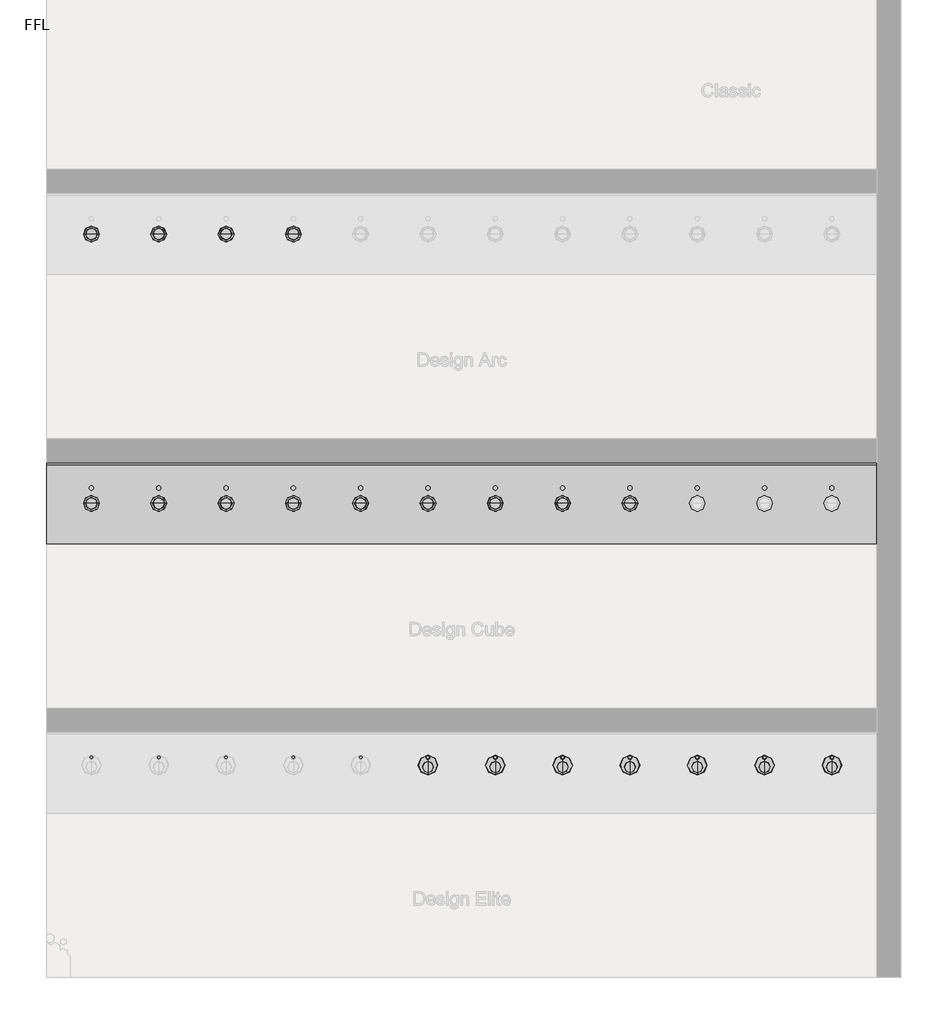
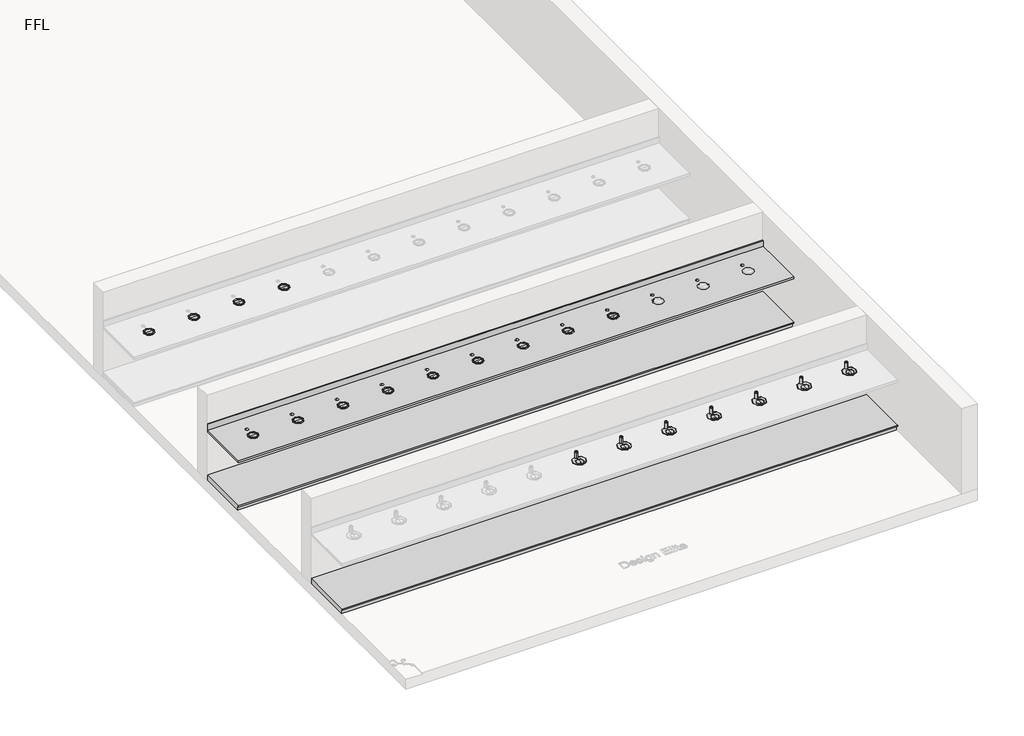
# One storey, part 2 of 6: 20 flow terminals, 3 furniture elements.
"""IFC4 building model written with IfcOpenShell, lengths in millimetres."""

from ifc_helpers import new_model, si_unit, frame, origin, place, context, project, spatial, polyline, circle_curve, transform, mapped, element, save
from ifc_brep_helpers import plane_surface, revolved_surface, advanced_brep
from components import bright_chrome_743c02cf, bright_chrome_13082571, generic_plinth_900mm_08863006

model = new_model("IFC4")

# Units and contexts
model_context = context("Model", 3, world=origin())
ifc_project = project(units=[si_unit("LENGTHUNIT", "METRE", prefix="MILLI")], contexts=[model_context])

# Site, building, storey
site = spatial("IfcSite", under=ifc_project)
building = spatial("IfcBuilding", under=site)
storey = spatial("IfcBuildingStorey", under=building, Name="FFL", Elevation=0.0)

# Flow terminals
placement = place(None, origin())
bright_chrome_shape = bright_chrome_743c02cf(model_context)
element("IfcFlowTerminal", 1, ObjectType="z_PlumFixt_Zip Australia_Font : Bright Chrome", at=placement, inside=storey, context=model_context, shape_type="MappedRepresentation", body=[
    mapped(bright_chrome_shape, transform((-6470.7352929, 4381.2393304, 900.0), x_axis=(1.0, 0.0, 0.0), y_axis=(0.0, 1.0, 0.0), z_axis=(0.0, 0.0, 1.0))),
])
element("IfcFlowTerminal", 2, ObjectType="z_PlumFixt_Zip Australia_Font : Bright Chrome", at=placement, inside=storey, context=model_context, shape_type="MappedRepresentation", body=[
    mapped(bright_chrome_shape, transform((-6470.7352929, 1381.2393304, 900.0), x_axis=(1.0, 0.0, 0.0), y_axis=(0.0, 1.0, 0.0), z_axis=(0.0, 0.0, 1.0))),
])
element("IfcFlowTerminal", 3, ObjectType="z_PlumFixt_Zip Australia_Font : Brushed Chrome", at=placement, inside=storey, context=model_context, shape_type="MappedRepresentation", body=[
    mapped(bright_chrome_shape, transform((-5720.7352929, 4381.2393304, 900.0), x_axis=(1.0, 0.0, 0.0), y_axis=(0.0, 1.0, 0.0), z_axis=(0.0, 0.0, 1.0))),
])
element("IfcFlowTerminal", 4, ObjectType="z_PlumFixt_Zip Australia_Font : Brushed Chrome", at=placement, inside=storey, context=model_context, shape_type="MappedRepresentation", body=[
    mapped(bright_chrome_shape, transform((-5720.7352929, 1381.2393304, 900.0), x_axis=(1.0, 0.0, 0.0), y_axis=(0.0, 1.0, 0.0), z_axis=(0.0, 0.0, 1.0))),
])
element("IfcFlowTerminal", 5, ObjectType="z_PlumFixt_Zip Australia_Font : Brushed Gold", at=placement, inside=storey, context=model_context, shape_type="MappedRepresentation", body=[
    mapped(bright_chrome_shape, transform((-4970.7352929, 4381.2393304, 900.0), x_axis=(1.0, 0.0, 0.0), y_axis=(0.0, 1.0, 0.0), z_axis=(0.0, 0.0, 1.0))),
])
element("IfcFlowTerminal", 6, ObjectType="z_PlumFixt_Zip Australia_Font : Brushed Gold", at=placement, inside=storey, context=model_context, shape_type="MappedRepresentation", body=[
    mapped(bright_chrome_shape, transform((-4970.7352929, 1381.2393304, 900.0), x_axis=(1.0, 0.0, 0.0), y_axis=(0.0, 1.0, 0.0), z_axis=(0.0, 0.0, 1.0))),
])
element("IfcFlowTerminal", 7, ObjectType="z_PlumFixt_Zip Australia_Font : Brushed Nickel", at=placement, inside=storey, context=model_context, shape_type="MappedRepresentation", body=[
    mapped(bright_chrome_shape, transform((-4220.7352929, 4381.2393304, 900.0), x_axis=(1.0, 0.0, 0.0), y_axis=(0.0, 1.0, 0.0), z_axis=(0.0, 0.0, 1.0))),
])
element("IfcFlowTerminal", 8, ObjectType="z_PlumFixt_Zip Australia_Font : Brushed Nickel", at=placement, inside=storey, context=model_context, shape_type="MappedRepresentation", body=[
    mapped(bright_chrome_shape, transform((-4220.7352929, 1381.2393304, 900.0), x_axis=(1.0, 0.0, 0.0), y_axis=(0.0, 1.0, 0.0), z_axis=(0.0, 0.0, 1.0))),
])
element("IfcFlowTerminal", 9, ObjectType="z_PlumFixt_Zip Australia_Font : Brushed Rose Gold", at=placement, inside=storey, context=model_context, shape_type="MappedRepresentation", body=[
    mapped(bright_chrome_shape, transform((-3470.7352929, 1381.2393304, 900.0), x_axis=(1.0, 0.0, 0.0), y_axis=(0.0, 1.0, 0.0), z_axis=(0.0, 0.0, 1.0))),
])
bright_chrome_2_shape = bright_chrome_13082571(model_context)
element("IfcFlowTerminal", 10, ObjectType="z_PlumFixt_Zip Australia_Font and Tap Riser : Gloss Black", at=placement, inside=storey, context=model_context, shape_type="MappedRepresentation", body=[
    mapped(bright_chrome_2_shape, transform((-2720.7352929, -1532.0106696, 900.0), x_axis=(1.0, 0.0, 0.0), y_axis=(0.0, 1.0, 0.0), z_axis=(0.0, 0.0, 1.0))),
])
element("IfcFlowTerminal", 11, ObjectType="z_PlumFixt_Zip Australia_Font : Gloss Black", at=placement, inside=storey, context=model_context, shape_type="MappedRepresentation", body=[
    mapped(bright_chrome_shape, transform((-2720.7352929, 1381.2393304, 900.0), x_axis=(1.0, 0.0, 0.0), y_axis=(0.0, 1.0, 0.0), z_axis=(0.0, 0.0, 1.0))),
])
element("IfcFlowTerminal", 12, ObjectType="z_PlumFixt_Zip Australia_Font : Gold", at=placement, inside=storey, context=model_context, shape_type="MappedRepresentation", body=[
    mapped(bright_chrome_shape, transform((-1970.7352929, 1381.2393304, 900.0), x_axis=(1.0, 0.0, 0.0), y_axis=(0.0, 1.0, 0.0), z_axis=(0.0, 0.0, 1.0))),
])
element("IfcFlowTerminal", 13, ObjectType="z_PlumFixt_Zip Australia_Font and Tap Riser : Gold", at=placement, inside=storey, context=model_context, shape_type="MappedRepresentation", body=[
    mapped(bright_chrome_2_shape, transform((-1970.7352929, -1532.0106696, 900.0), x_axis=(1.0, 0.0, 0.0), y_axis=(0.0, 1.0, 0.0), z_axis=(0.0, 0.0, 1.0))),
])
element("IfcFlowTerminal", 14, ObjectType="z_PlumFixt_Zip Australia_Font : Gunmetal", at=placement, inside=storey, context=model_context, shape_type="MappedRepresentation", body=[
    mapped(bright_chrome_shape, transform((-1220.7352929, 1381.2393304, 900.0), x_axis=(1.0, 0.0, 0.0), y_axis=(0.0, 1.0, 0.0), z_axis=(0.0, 0.0, 1.0))),
])
element("IfcFlowTerminal", 15, ObjectType="z_PlumFixt_Zip Australia_Font and Tap Riser : Gunmetal", at=placement, inside=storey, context=model_context, shape_type="MappedRepresentation", body=[
    mapped(bright_chrome_2_shape, transform((-1220.7352929, -1532.0106696, 900.0), x_axis=(1.0, 0.0, 0.0), y_axis=(0.0, 1.0, 0.0), z_axis=(0.0, 0.0, 1.0))),
])
element("IfcFlowTerminal", 16, ObjectType="z_PlumFixt_Zip Australia_Font and Tap Riser : Matte Black", at=placement, inside=storey, context=model_context, shape_type="MappedRepresentation", body=[
    mapped(bright_chrome_2_shape, transform((-470.7352929, -1532.0106696, 900.0), x_axis=(1.0, 0.0, 0.0), y_axis=(0.0, 1.0, 0.0), z_axis=(0.0, 0.0, 1.0))),
])
element("IfcFlowTerminal", 17, ObjectType="z_PlumFixt_Zip Australia_Font : Matte Black", at=placement, inside=storey, context=model_context, shape_type="MappedRepresentation", body=[
    mapped(bright_chrome_shape, transform((-470.7352929, 1381.2393304, 900.0), x_axis=(1.0, 0.0, 0.0), y_axis=(0.0, 1.0, 0.0), z_axis=(0.0, 0.0, 1.0))),
])
element("IfcFlowTerminal", 18, ObjectType="z_PlumFixt_Zip Australia_Font and Tap Riser : Nickel", at=placement, inside=storey, context=model_context, shape_type="MappedRepresentation", body=[
    mapped(bright_chrome_2_shape, transform((279.2647071, -1532.0106696, 900.0), x_axis=(1.0, 0.0, 0.0), y_axis=(0.0, 1.0, 0.0), z_axis=(0.0, 0.0, 1.0))),
])
element("IfcFlowTerminal", 19, ObjectType="z_PlumFixt_Zip Australia_Font and Tap Riser : Platinum", at=placement, inside=storey, context=model_context, shape_type="MappedRepresentation", body=[
    mapped(bright_chrome_2_shape, transform((1029.2647071, -1532.0106696, 900.0), x_axis=(1.0, 0.0, 0.0), y_axis=(0.0, 1.0, 0.0), z_axis=(0.0, 0.0, 1.0))),
])
element("IfcFlowTerminal", 20, ObjectType="z_PlumFixt_Zip Australia_Font and Tap Riser : Rose Gold", at=placement, inside=storey, context=model_context, shape_type="MappedRepresentation", body=[
    mapped(bright_chrome_2_shape, transform((1779.2647071, -1532.0106696, 900.0), x_axis=(1.0, 0.0, 0.0), y_axis=(0.0, 1.0, 0.0), z_axis=(0.0, 0.0, 1.0))),
])

# Furniture
element("IfcFurniture", 21, ObjectType="Counter Top : 900mm Depth", at=placement, inside=storey, context=model_context, shape_type="AdvancedBrep", body=[
    advanced_brep(
    [(-6969.7352929, 948.2393304, 900.0), (2280.2657919, 948.2393304, 900.0), (2280.2657919, 1829.1893304, 900.0), (-6969.7352929, 1829.1893304, 900.0), (-6469.7352929, 1328.0393304, 900.0), (-6469.7352929, 1464.4393304, 900.0), (-6469.7352929, 1544.2393304, 900.0), (-6469.7352929, 1592.2393304, 900.0), (-5719.7352929, 1544.2393304, 900.0), (-5719.7352929, 1592.2393304, 900.0), (-4969.7352929, 1328.0393304, 900.0), (-4969.7352929, 1464.4393304, 900.0), (-4969.7352929, 1544.2393304, 900.0), (-4969.7352929, 1592.2393304, 900.0), (-4219.7352929, 1544.2393304, 900.0), (-4219.7352929, 1592.2393304, 900.0), (-3469.7352929, 1328.0393304, 900.0), (-3469.7352929, 1464.4393304, 900.0), (-3469.7352929, 1544.2393304, 900.0), (-3469.7352929, 1592.2393304, 900.0), (-2719.7352929, 1544.2393304, 900.0), (-2719.7352929, 1592.2393304, 900.0), (-1969.7352929, 1328.0393304, 900.0), (-1969.7352929, 1464.4393304, 900.0), (-1969.7352929, 1544.2393304, 900.0), (-1969.7352929, 1592.2393304, 900.0), (-1219.7352929, 1544.2393304, 900.0), (-1219.7352929, 1592.2393304, 900.0), (-469.7352929, 1328.0393304, 900.0), (-469.7352929, 1464.4393304, 900.0), (-469.7352929, 1544.2393304, 900.0), (-469.7352929, 1592.2393304, 900.0), (280.2647071, 1544.2393304, 900.0), (280.2647071, 1592.2393304, 900.0), (1030.2647071, 1328.0393304, 900.0), (1030.2647071, 1464.4393304, 900.0), (1030.2647071, 1544.2393304, 900.0), (1030.2647071, 1592.2393304, 900.0), (1780.2647071, 1544.2393304, 900.0), (1780.2647071, 1592.2393304, 900.0), (-5719.7352929, 1328.0393304, 900.0), (-5719.7352929, 1464.4393304, 900.0), (-4219.7352929, 1328.0393304, 900.0), (-4219.7352929, 1464.4393304, 900.0), (-2719.7352929, 1328.0393304, 900.0), (-2719.7352929, 1464.4393304, 900.0), (-1219.7352929, 1328.0393304, 900.0), (-1219.7352929, 1464.4393304, 900.0), (280.2647071, 1328.0393304, 900.0), (280.2647071, 1464.4393304, 900.0), (1780.2647071, 1328.0393304, 900.0), (1780.2647071, 1464.4393304, 900.0), (2280.2657919, 1848.2393304, 860.0), (2280.2657919, 948.2393304, 860.0), (-6969.7352929, 948.2393304, 860.0), (-6969.7352929, 1848.2393304, 860.0), (-6469.7352929, 1464.4393304, 860.0), (-6469.7352929, 1328.0393304, 860.0), (-6469.7352929, 1592.2393304, 860.0), (-6469.7352929, 1544.2393304, 860.0), (-5719.7352929, 1592.2393304, 860.0), (-5719.7352929, 1544.2393304, 860.0), (-4969.7352929, 1464.4393304, 860.0), (-4969.7352929, 1328.0393304, 860.0), (-4969.7352929, 1592.2393304, 860.0), (-4969.7352929, 1544.2393304, 860.0), (-4219.7352929, 1592.2393304, 860.0), (-4219.7352929, 1544.2393304, 860.0), (-3469.7352929, 1464.4393304, 860.0), (-3469.7352929, 1328.0393304, 860.0), (-3469.7352929, 1592.2393304, 860.0), (-3469.7352929, 1544.2393304, 860.0), (-2719.7352929, 1592.2393304, 860.0), (-2719.7352929, 1544.2393304, 860.0), (-1969.7352929, 1464.4393304, 860.0), (-1969.7352929, 1328.0393304, 860.0), (-1969.7352929, 1592.2393304, 860.0), (-1969.7352929, 1544.2393304, 860.0), (-1219.7352929, 1592.2393304, 860.0), (-1219.7352929, 1544.2393304, 860.0), (-469.7352929, 1464.4393304, 860.0), (-469.7352929, 1328.0393304, 860.0), (-469.7352929, 1592.2393304, 860.0), (-469.7352929, 1544.2393304, 860.0), (280.2647071, 1592.2393304, 860.0), (280.2647071, 1544.2393304, 860.0), (1030.2647071, 1464.4393304, 860.0), (1030.2647071, 1328.0393304, 860.0), (1030.2647071, 1592.2393304, 860.0), (1030.2647071, 1544.2393304, 860.0), (1780.2647071, 1592.2393304, 860.0), (1780.2647071, 1544.2393304, 860.0), (-5719.7352929, 1464.4393304, 860.0), (-5719.7352929, 1328.0393304, 860.0), (-4219.7352929, 1464.4393304, 860.0), (-4219.7352929, 1328.0393304, 860.0), (-2719.7352929, 1464.4393304, 860.0), (-2719.7352929, 1328.0393304, 860.0), (-1219.7352929, 1464.4393304, 860.0), (-1219.7352929, 1328.0393304, 860.0), (280.2647071, 1464.4393304, 860.0), (280.2647071, 1328.0393304, 860.0), (1780.2647071, 1464.4393304, 860.0), (1780.2647071, 1328.0393304, 860.0), (-6969.7352929, 1848.2393304, 1001.6), (2280.2657919, 1848.2393304, 1001.6), (-6969.7352929, 1829.1893304, 1001.6), (2280.2657919, 1829.1893304, 1001.6)],
    [
        (0, 1),
        (1, 2),
        (2, 3),
        (3, 0),
        (4, 5, circle_curve(frame((-6469.7352929, 1396.2393304, 900.0), z_axis=(0.0, 0.0, -1.0), x_axis=(0.0, -1.0, 0.0)), 68.2)),
        (5, 4, circle_curve(frame((-6469.7352929, 1396.2393304, 900.0), z_axis=(0.0, 0.0, -1.0), x_axis=(0.0, -1.0, 0.0)), 68.2)),
        (6, 7, circle_curve(frame((-6469.7352929, 1568.2393304, 900.0), z_axis=(0.0, 0.0, -1.0), x_axis=(0.0, -1.0, 0.0)), 24.0)),
        (7, 6, circle_curve(frame((-6469.7352929, 1568.2393304, 900.0), z_axis=(0.0, 0.0, -1.0), x_axis=(0.0, -1.0, 0.0)), 24.0)),
        (8, 9, circle_curve(frame((-5719.7352929, 1568.2393304, 900.0), z_axis=(0.0, 0.0, -1.0), x_axis=(0.0, -1.0, 0.0)), 24.0)),
        (9, 8, circle_curve(frame((-5719.7352929, 1568.2393304, 900.0), z_axis=(0.0, 0.0, -1.0), x_axis=(0.0, -1.0, 0.0)), 24.0)),
        (10, 11, circle_curve(frame((-4969.7352929, 1396.2393304, 900.0), z_axis=(0.0, 0.0, -1.0), x_axis=(0.0, -1.0, 0.0)), 68.2)),
        (11, 10, circle_curve(frame((-4969.7352929, 1396.2393304, 900.0), z_axis=(0.0, 0.0, -1.0), x_axis=(0.0, -1.0, 0.0)), 68.2)),
        (12, 13, circle_curve(frame((-4969.7352929, 1568.2393304, 900.0), z_axis=(0.0, 0.0, -1.0), x_axis=(0.0, -1.0, 0.0)), 24.0)),
        (13, 12, circle_curve(frame((-4969.7352929, 1568.2393304, 900.0), z_axis=(0.0, 0.0, -1.0), x_axis=(0.0, -1.0, 0.0)), 24.0)),
        (14, 15, circle_curve(frame((-4219.7352929, 1568.2393304, 900.0), z_axis=(0.0, 0.0, -1.0), x_axis=(0.0, -1.0, 0.0)), 24.0)),
        (15, 14, circle_curve(frame((-4219.7352929, 1568.2393304, 900.0), z_axis=(0.0, 0.0, -1.0), x_axis=(0.0, -1.0, 0.0)), 24.0)),
        (16, 17, circle_curve(frame((-3469.7352929, 1396.2393304, 900.0), z_axis=(0.0, 0.0, -1.0), x_axis=(0.0, -1.0, 0.0)), 68.2)),
        (17, 16, circle_curve(frame((-3469.7352929, 1396.2393304, 900.0), z_axis=(0.0, 0.0, -1.0), x_axis=(0.0, -1.0, 0.0)), 68.2)),
        (18, 19, circle_curve(frame((-3469.7352929, 1568.2393304, 900.0), z_axis=(0.0, 0.0, -1.0), x_axis=(0.0, -1.0, 0.0)), 24.0)),
        (19, 18, circle_curve(frame((-3469.7352929, 1568.2393304, 900.0), z_axis=(0.0, 0.0, -1.0), x_axis=(0.0, -1.0, 0.0)), 24.0)),
        (20, 21, circle_curve(frame((-2719.7352929, 1568.2393304, 900.0), z_axis=(0.0, 0.0, -1.0), x_axis=(0.0, -1.0, 0.0)), 24.0)),
        (21, 20, circle_curve(frame((-2719.7352929, 1568.2393304, 900.0), z_axis=(0.0, 0.0, -1.0), x_axis=(0.0, -1.0, 0.0)), 24.0)),
        (22, 23, circle_curve(frame((-1969.7352929, 1396.2393304, 900.0), z_axis=(0.0, 0.0, -1.0), x_axis=(0.0, -1.0, 0.0)), 68.2)),
        (23, 22, circle_curve(frame((-1969.7352929, 1396.2393304, 900.0), z_axis=(0.0, 0.0, -1.0), x_axis=(0.0, -1.0, 0.0)), 68.2)),
        (24, 25, circle_curve(frame((-1969.7352929, 1568.2393304, 900.0), z_axis=(0.0, 0.0, -1.0), x_axis=(0.0, -1.0, 0.0)), 24.0)),
        (25, 24, circle_curve(frame((-1969.7352929, 1568.2393304, 900.0), z_axis=(0.0, 0.0, -1.0), x_axis=(0.0, -1.0, 0.0)), 24.0)),
        (26, 27, circle_curve(frame((-1219.7352929, 1568.2393304, 900.0), z_axis=(0.0, 0.0, -1.0), x_axis=(0.0, -1.0, 0.0)), 24.0)),
        (27, 26, circle_curve(frame((-1219.7352929, 1568.2393304, 900.0), z_axis=(0.0, 0.0, -1.0), x_axis=(0.0, -1.0, 0.0)), 24.0)),
        (28, 29, circle_curve(frame((-469.7352929, 1396.2393304, 900.0), z_axis=(0.0, 0.0, -1.0), x_axis=(0.0, -1.0, 0.0)), 68.2)),
        (29, 28, circle_curve(frame((-469.7352929, 1396.2393304, 900.0), z_axis=(0.0, 0.0, -1.0), x_axis=(0.0, -1.0, 0.0)), 68.2)),
        (30, 31, circle_curve(frame((-469.7352929, 1568.2393304, 900.0), z_axis=(0.0, 0.0, -1.0), x_axis=(0.0, -1.0, 0.0)), 24.0)),
        (31, 30, circle_curve(frame((-469.7352929, 1568.2393304, 900.0), z_axis=(0.0, 0.0, -1.0), x_axis=(0.0, -1.0, 0.0)), 24.0)),
        (32, 33, circle_curve(frame((280.2647071, 1568.2393304, 900.0), z_axis=(0.0, 0.0, -1.0), x_axis=(0.0, -1.0, 0.0)), 24.0)),
        (33, 32, circle_curve(frame((280.2647071, 1568.2393304, 900.0), z_axis=(0.0, 0.0, -1.0), x_axis=(0.0, -1.0, 0.0)), 24.0)),
        (34, 35, circle_curve(frame((1030.2647071, 1396.2393304, 900.0), z_axis=(0.0, 0.0, -1.0), x_axis=(0.0, -1.0, 0.0)), 68.2)),
        (35, 34, circle_curve(frame((1030.2647071, 1396.2393304, 900.0), z_axis=(0.0, 0.0, -1.0), x_axis=(0.0, -1.0, 0.0)), 68.2)),
        (36, 37, circle_curve(frame((1030.2647071, 1568.2393304, 900.0), z_axis=(0.0, 0.0, -1.0), x_axis=(0.0, -1.0, 0.0)), 24.0)),
        (37, 36, circle_curve(frame((1030.2647071, 1568.2393304, 900.0), z_axis=(0.0, 0.0, -1.0), x_axis=(0.0, -1.0, 0.0)), 24.0)),
        (38, 39, circle_curve(frame((1780.2647071, 1568.2393304, 900.0), z_axis=(0.0, 0.0, -1.0), x_axis=(0.0, -1.0, 0.0)), 24.0)),
        (39, 38, circle_curve(frame((1780.2647071, 1568.2393304, 900.0), z_axis=(0.0, 0.0, -1.0), x_axis=(0.0, -1.0, 0.0)), 24.0)),
        (40, 41, circle_curve(frame((-5719.7352929, 1396.2393304, 900.0), z_axis=(0.0, 0.0, -1.0), x_axis=(0.0, -1.0, 0.0)), 68.2)),
        (41, 40, circle_curve(frame((-5719.7352929, 1396.2393304, 900.0), z_axis=(0.0, 0.0, -1.0), x_axis=(0.0, -1.0, 0.0)), 68.2)),
        (42, 43, circle_curve(frame((-4219.7352929, 1396.2393304, 900.0), z_axis=(0.0, 0.0, -1.0), x_axis=(0.0, -1.0, 0.0)), 68.2)),
        (43, 42, circle_curve(frame((-4219.7352929, 1396.2393304, 900.0), z_axis=(0.0, 0.0, -1.0), x_axis=(0.0, -1.0, 0.0)), 68.2)),
        (44, 45, circle_curve(frame((-2719.7352929, 1396.2393304, 900.0), z_axis=(0.0, 0.0, -1.0), x_axis=(0.0, -1.0, 0.0)), 68.2)),
        (45, 44, circle_curve(frame((-2719.7352929, 1396.2393304, 900.0), z_axis=(0.0, 0.0, -1.0), x_axis=(0.0, -1.0, 0.0)), 68.2)),
        (46, 47, circle_curve(frame((-1219.7352929, 1396.2393304, 900.0), z_axis=(0.0, 0.0, -1.0), x_axis=(0.0, -1.0, 0.0)), 68.2)),
        (47, 46, circle_curve(frame((-1219.7352929, 1396.2393304, 900.0), z_axis=(0.0, 0.0, -1.0), x_axis=(0.0, -1.0, 0.0)), 68.2)),
        (48, 49, circle_curve(frame((280.2647071, 1396.2393304, 900.0), z_axis=(0.0, 0.0, -1.0), x_axis=(0.0, -1.0, 0.0)), 68.2)),
        (49, 48, circle_curve(frame((280.2647071, 1396.2393304, 900.0), z_axis=(0.0, 0.0, -1.0), x_axis=(0.0, -1.0, 0.0)), 68.2)),
        (50, 51, circle_curve(frame((1780.2647071, 1396.2393304, 900.0), z_axis=(0.0, 0.0, -1.0), x_axis=(0.0, -1.0, 0.0)), 68.2)),
        (51, 50, circle_curve(frame((1780.2647071, 1396.2393304, 900.0), z_axis=(0.0, 0.0, -1.0), x_axis=(0.0, -1.0, 0.0)), 68.2)),
        (52, 53),
        (53, 54),
        (54, 55),
        (55, 52),
        (56, 57, circle_curve(frame((-6469.7352929, 1396.2393304, 860.0), z_axis=(0.0, 0.0, 1.0), x_axis=(0.0, -1.0, 0.0)), 68.2)),
        (57, 56, circle_curve(frame((-6469.7352929, 1396.2393304, 860.0), z_axis=(0.0, 0.0, 1.0), x_axis=(0.0, -1.0, 0.0)), 68.2)),
        (58, 59, circle_curve(frame((-6469.7352929, 1568.2393304, 860.0), z_axis=(0.0, 0.0, 1.0), x_axis=(0.0, -1.0, 0.0)), 24.0)),
        (59, 58, circle_curve(frame((-6469.7352929, 1568.2393304, 860.0), z_axis=(0.0, 0.0, 1.0), x_axis=(0.0, -1.0, 0.0)), 24.0)),
        (60, 61, circle_curve(frame((-5719.7352929, 1568.2393304, 860.0), z_axis=(0.0, 0.0, 1.0), x_axis=(0.0, -1.0, 0.0)), 24.0)),
        (61, 60, circle_curve(frame((-5719.7352929, 1568.2393304, 860.0), z_axis=(0.0, 0.0, 1.0), x_axis=(0.0, -1.0, 0.0)), 24.0)),
        (62, 63, circle_curve(frame((-4969.7352929, 1396.2393304, 860.0), z_axis=(0.0, 0.0, 1.0), x_axis=(0.0, -1.0, 0.0)), 68.2)),
        (63, 62, circle_curve(frame((-4969.7352929, 1396.2393304, 860.0), z_axis=(0.0, 0.0, 1.0), x_axis=(0.0, -1.0, 0.0)), 68.2)),
        (64, 65, circle_curve(frame((-4969.7352929, 1568.2393304, 860.0), z_axis=(0.0, 0.0, 1.0), x_axis=(0.0, -1.0, 0.0)), 24.0)),
        (65, 64, circle_curve(frame((-4969.7352929, 1568.2393304, 860.0), z_axis=(0.0, 0.0, 1.0), x_axis=(0.0, -1.0, 0.0)), 24.0)),
        (66, 67, circle_curve(frame((-4219.7352929, 1568.2393304, 860.0), z_axis=(0.0, 0.0, 1.0), x_axis=(0.0, -1.0, 0.0)), 24.0)),
        (67, 66, circle_curve(frame((-4219.7352929, 1568.2393304, 860.0), z_axis=(0.0, 0.0, 1.0), x_axis=(0.0, -1.0, 0.0)), 24.0)),
        (68, 69, circle_curve(frame((-3469.7352929, 1396.2393304, 860.0), z_axis=(0.0, 0.0, 1.0), x_axis=(0.0, -1.0, 0.0)), 68.2)),
        (69, 68, circle_curve(frame((-3469.7352929, 1396.2393304, 860.0), z_axis=(0.0, 0.0, 1.0), x_axis=(0.0, -1.0, 0.0)), 68.2)),
        (70, 71, circle_curve(frame((-3469.7352929, 1568.2393304, 860.0), z_axis=(0.0, 0.0, 1.0), x_axis=(0.0, -1.0, 0.0)), 24.0)),
        (71, 70, circle_curve(frame((-3469.7352929, 1568.2393304, 860.0), z_axis=(0.0, 0.0, 1.0), x_axis=(0.0, -1.0, 0.0)), 24.0)),
        (72, 73, circle_curve(frame((-2719.7352929, 1568.2393304, 860.0), z_axis=(0.0, 0.0, 1.0), x_axis=(0.0, -1.0, 0.0)), 24.0)),
        (73, 72, circle_curve(frame((-2719.7352929, 1568.2393304, 860.0), z_axis=(0.0, 0.0, 1.0), x_axis=(0.0, -1.0, 0.0)), 24.0)),
        (74, 75, circle_curve(frame((-1969.7352929, 1396.2393304, 860.0), z_axis=(0.0, 0.0, 1.0), x_axis=(0.0, -1.0, 0.0)), 68.2)),
        (75, 74, circle_curve(frame((-1969.7352929, 1396.2393304, 860.0), z_axis=(0.0, 0.0, 1.0), x_axis=(0.0, -1.0, 0.0)), 68.2)),
        (76, 77, circle_curve(frame((-1969.7352929, 1568.2393304, 860.0), z_axis=(0.0, 0.0, 1.0), x_axis=(0.0, -1.0, 0.0)), 24.0)),
        (77, 76, circle_curve(frame((-1969.7352929, 1568.2393304, 860.0), z_axis=(0.0, 0.0, 1.0), x_axis=(0.0, -1.0, 0.0)), 24.0)),
        (78, 79, circle_curve(frame((-1219.7352929, 1568.2393304, 860.0), z_axis=(0.0, 0.0, 1.0), x_axis=(0.0, -1.0, 0.0)), 24.0)),
        (79, 78, circle_curve(frame((-1219.7352929, 1568.2393304, 860.0), z_axis=(0.0, 0.0, 1.0), x_axis=(0.0, -1.0, 0.0)), 24.0)),
        (80, 81, circle_curve(frame((-469.7352929, 1396.2393304, 860.0), z_axis=(0.0, 0.0, 1.0), x_axis=(0.0, -1.0, 0.0)), 68.2)),
        (81, 80, circle_curve(frame((-469.7352929, 1396.2393304, 860.0), z_axis=(0.0, 0.0, 1.0), x_axis=(0.0, -1.0, 0.0)), 68.2)),
        (82, 83, circle_curve(frame((-469.7352929, 1568.2393304, 860.0), z_axis=(0.0, 0.0, 1.0), x_axis=(0.0, -1.0, 0.0)), 24.0)),
        (83, 82, circle_curve(frame((-469.7352929, 1568.2393304, 860.0), z_axis=(0.0, 0.0, 1.0), x_axis=(0.0, -1.0, 0.0)), 24.0)),
        (84, 85, circle_curve(frame((280.2647071, 1568.2393304, 860.0), z_axis=(0.0, 0.0, 1.0), x_axis=(0.0, -1.0, 0.0)), 24.0)),
        (85, 84, circle_curve(frame((280.2647071, 1568.2393304, 860.0), z_axis=(0.0, 0.0, 1.0), x_axis=(0.0, -1.0, 0.0)), 24.0)),
        (86, 87, circle_curve(frame((1030.2647071, 1396.2393304, 860.0), z_axis=(0.0, 0.0, 1.0), x_axis=(0.0, -1.0, 0.0)), 68.2)),
        (87, 86, circle_curve(frame((1030.2647071, 1396.2393304, 860.0), z_axis=(0.0, 0.0, 1.0), x_axis=(0.0, -1.0, 0.0)), 68.2)),
        (88, 89, circle_curve(frame((1030.2647071, 1568.2393304, 860.0), z_axis=(0.0, 0.0, 1.0), x_axis=(0.0, -1.0, 0.0)), 24.0)),
        (89, 88, circle_curve(frame((1030.2647071, 1568.2393304, 860.0), z_axis=(0.0, 0.0, 1.0), x_axis=(0.0, -1.0, 0.0)), 24.0)),
        (90, 91, circle_curve(frame((1780.2647071, 1568.2393304, 860.0), z_axis=(0.0, 0.0, 1.0), x_axis=(0.0, -1.0, 0.0)), 24.0)),
        (91, 90, circle_curve(frame((1780.2647071, 1568.2393304, 860.0), z_axis=(0.0, 0.0, 1.0), x_axis=(0.0, -1.0, 0.0)), 24.0)),
        (92, 93, circle_curve(frame((-5719.7352929, 1396.2393304, 860.0), z_axis=(0.0, 0.0, 1.0), x_axis=(0.0, -1.0, 0.0)), 68.2)),
        (93, 92, circle_curve(frame((-5719.7352929, 1396.2393304, 860.0), z_axis=(0.0, 0.0, 1.0), x_axis=(0.0, -1.0, 0.0)), 68.2)),
        (94, 95, circle_curve(frame((-4219.7352929, 1396.2393304, 860.0), z_axis=(0.0, 0.0, 1.0), x_axis=(0.0, -1.0, 0.0)), 68.2)),
        (95, 94, circle_curve(frame((-4219.7352929, 1396.2393304, 860.0), z_axis=(0.0, 0.0, 1.0), x_axis=(0.0, -1.0, 0.0)), 68.2)),
        (96, 97, circle_curve(frame((-2719.7352929, 1396.2393304, 860.0), z_axis=(0.0, 0.0, 1.0), x_axis=(0.0, -1.0, 0.0)), 68.2)),
        (97, 96, circle_curve(frame((-2719.7352929, 1396.2393304, 860.0), z_axis=(0.0, 0.0, 1.0), x_axis=(0.0, -1.0, 0.0)), 68.2)),
        (98, 99, circle_curve(frame((-1219.7352929, 1396.2393304, 860.0), z_axis=(0.0, 0.0, 1.0), x_axis=(0.0, -1.0, 0.0)), 68.2)),
        (99, 98, circle_curve(frame((-1219.7352929, 1396.2393304, 860.0), z_axis=(0.0, 0.0, 1.0), x_axis=(0.0, -1.0, 0.0)), 68.2)),
        (100, 101, circle_curve(frame((280.2647071, 1396.2393304, 860.0), z_axis=(0.0, 0.0, 1.0), x_axis=(0.0, -1.0, 0.0)), 68.2)),
        (101, 100, circle_curve(frame((280.2647071, 1396.2393304, 860.0), z_axis=(0.0, 0.0, 1.0), x_axis=(0.0, -1.0, 0.0)), 68.2)),
        (102, 103, circle_curve(frame((1780.2647071, 1396.2393304, 860.0), z_axis=(0.0, 0.0, 1.0), x_axis=(0.0, -1.0, 0.0)), 68.2)),
        (103, 102, circle_curve(frame((1780.2647071, 1396.2393304, 860.0), z_axis=(0.0, 0.0, 1.0), x_axis=(0.0, -1.0, 0.0)), 68.2)),
        (55, 104),
        (104, 105),
        (105, 52),
        (3, 106),
        (106, 104),
        (54, 0),
        (53, 1),
        (105, 107),
        (107, 2),
        (106, 107),
        (56, 5),
        (4, 57),
        (58, 7),
        (6, 59),
        (92, 41),
        (40, 93),
        (60, 9),
        (8, 61),
        (62, 11),
        (10, 63),
        (64, 13),
        (12, 65),
        (94, 43),
        (42, 95),
        (66, 15),
        (14, 67),
        (68, 17),
        (16, 69),
        (70, 19),
        (18, 71),
        (96, 45),
        (44, 97),
        (72, 21),
        (20, 73),
        (74, 23),
        (22, 75),
        (76, 25),
        (24, 77),
        (98, 47),
        (46, 99),
        (78, 27),
        (26, 79),
        (80, 29),
        (28, 81),
        (82, 31),
        (30, 83),
        (100, 49),
        (48, 101),
        (84, 33),
        (32, 85),
        (86, 35),
        (34, 87),
        (88, 37),
        (36, 89),
        (102, 51),
        (50, 103),
        (90, 39),
        (38, 91),
    ],
    [
        plane_surface(frame((-6969.7352929, 1848.2393304, 900.0), z_axis=(0.0, 0.0, 1.0), x_axis=(-1.0, 0.0, 0.0))),
        plane_surface(frame((-6969.7352929, 1848.2393304, 860.0), z_axis=(0.0, 0.0, -1.0), x_axis=(1.0, 0.0, 0.0))),
        plane_surface(frame((2280.2657919, 1848.2393304, 900.0), z_axis=(0.0, 1.0, 0.0), x_axis=(0.0, 0.0, -1.0))),
        plane_surface(frame((-6969.7352929, 1848.2393304, 900.0), z_axis=(-1.0, 0.0, 0.0), x_axis=(0.0, 0.0, -1.0))),
        plane_surface(frame((-6969.7352929, 948.2393304, 900.0), z_axis=(0.0, -1.0, 0.0), x_axis=(0.0, 0.0, -1.0))),
        plane_surface(frame((2280.2657919, 948.2393304, 900.0), z_axis=(1.0, 0.0, 0.0), x_axis=(0.0, 0.0, -1.0))),
        plane_surface(frame((-6969.7352929, 1848.2393304, 1001.6), z_axis=(0.0, 0.0, 1.0), x_axis=(0.0, -1.0, 0.0))),
        plane_surface(frame((-6969.7352929, 1829.1893304, 1001.6), z_axis=(0.0, -1.0, 0.0), x_axis=(0.0, 0.0, -1.0))),
        revolved_surface(polyline([(-6469.7352929, 1328.0393304, 900.0), (-6469.7352929, 1328.0393304, 860.0)]), (-6469.7352929, 1396.2393304, 700.0), (0.0, 0.0, 1.0)),
        revolved_surface(polyline([(-6469.7352929, 1544.2393304, 900.0), (-6469.7352929, 1544.2393304, 860.0)]), (-6469.7352929, 1568.2393304, 700.0), (0.0, 0.0, 1.0)),
        revolved_surface(polyline([(-5719.7352929, 1328.0393304, 900.0), (-5719.7352929, 1328.0393304, 860.0)]), (-5719.7352929, 1396.2393304, 700.0), (0.0, 0.0, 1.0)),
        revolved_surface(polyline([(-5719.7352929, 1544.2393304, 900.0), (-5719.7352929, 1544.2393304, 860.0)]), (-5719.7352929, 1568.2393304, 700.0), (0.0, 0.0, 1.0)),
        revolved_surface(polyline([(-4969.7352929, 1328.0393304, 900.0), (-4969.7352929, 1328.0393304, 860.0)]), (-4969.7352929, 1396.2393304, 700.0), (0.0, 0.0, 1.0)),
        revolved_surface(polyline([(-4969.7352929, 1544.2393304, 900.0), (-4969.7352929, 1544.2393304, 860.0)]), (-4969.7352929, 1568.2393304, 700.0), (0.0, 0.0, 1.0)),
        revolved_surface(polyline([(-4219.7352929, 1328.0393304, 900.0), (-4219.7352929, 1328.0393304, 860.0)]), (-4219.7352929, 1396.2393304, 700.0), (0.0, 0.0, 1.0)),
        revolved_surface(polyline([(-4219.7352929, 1544.2393304, 900.0), (-4219.7352929, 1544.2393304, 860.0)]), (-4219.7352929, 1568.2393304, 700.0), (0.0, 0.0, 1.0)),
        revolved_surface(polyline([(-3469.7352929, 1328.0393304, 900.0), (-3469.7352929, 1328.0393304, 860.0)]), (-3469.7352929, 1396.2393304, 700.0), (0.0, 0.0, 1.0)),
        revolved_surface(polyline([(-3469.7352929, 1544.2393304, 900.0), (-3469.7352929, 1544.2393304, 860.0)]), (-3469.7352929, 1568.2393304, 700.0), (0.0, 0.0, 1.0)),
        revolved_surface(polyline([(-2719.7352929, 1328.0393304, 900.0), (-2719.7352929, 1328.0393304, 860.0)]), (-2719.7352929, 1396.2393304, 700.0), (0.0, 0.0, 1.0)),
        revolved_surface(polyline([(-2719.7352929, 1544.2393304, 900.0), (-2719.7352929, 1544.2393304, 860.0)]), (-2719.7352929, 1568.2393304, 700.0), (0.0, 0.0, 1.0)),
        revolved_surface(polyline([(-1969.7352929, 1328.0393304, 900.0), (-1969.7352929, 1328.0393304, 860.0)]), (-1969.7352929, 1396.2393304, 700.0), (0.0, 0.0, 1.0)),
        revolved_surface(polyline([(-1969.7352929, 1544.2393304, 900.0), (-1969.7352929, 1544.2393304, 860.0)]), (-1969.7352929, 1568.2393304, 700.0), (0.0, 0.0, 1.0)),
        revolved_surface(polyline([(-1219.7352929, 1328.0393304, 900.0), (-1219.7352929, 1328.0393304, 860.0)]), (-1219.7352929, 1396.2393304, 700.0), (0.0, 0.0, 1.0)),
        revolved_surface(polyline([(-1219.7352929, 1544.2393304, 900.0), (-1219.7352929, 1544.2393304, 860.0)]), (-1219.7352929, 1568.2393304, 700.0), (0.0, 0.0, 1.0)),
        revolved_surface(polyline([(-469.7352929, 1328.0393304, 900.0), (-469.7352929, 1328.0393304, 860.0)]), (-469.7352929, 1396.2393304, 700.0), (0.0, 0.0, 1.0)),
        revolved_surface(polyline([(-469.7352929, 1544.2393304, 900.0), (-469.7352929, 1544.2393304, 860.0)]), (-469.7352929, 1568.2393304, 700.0), (0.0, 0.0, 1.0)),
        revolved_surface(polyline([(280.2647071, 1328.0393304, 900.0), (280.2647071, 1328.0393304, 860.0)]), (280.2647071, 1396.2393304, 700.0), (0.0, 0.0, 1.0)),
        revolved_surface(polyline([(280.2647071, 1544.2393304, 900.0), (280.2647071, 1544.2393304, 860.0)]), (280.2647071, 1568.2393304, 700.0), (0.0, 0.0, 1.0)),
        revolved_surface(polyline([(1030.2647071, 1328.0393304, 900.0), (1030.2647071, 1328.0393304, 860.0)]), (1030.2647071, 1396.2393304, 700.0), (0.0, 0.0, 1.0)),
        revolved_surface(polyline([(1030.2647071, 1544.2393304, 900.0), (1030.2647071, 1544.2393304, 860.0)]), (1030.2647071, 1568.2393304, 700.0), (0.0, 0.0, 1.0)),
        revolved_surface(polyline([(1780.2647071, 1328.0393304, 900.0), (1780.2647071, 1328.0393304, 860.0)]), (1780.2647071, 1396.2393304, 700.0), (0.0, 0.0, 1.0)),
        revolved_surface(polyline([(1780.2647071, 1544.2393304, 900.0), (1780.2647071, 1544.2393304, 860.0)]), (1780.2647071, 1568.2393304, 700.0), (0.0, 0.0, 1.0)),
    ],
    [
        (0, [[1, 2, 3, 4], [5, 6], [7, 8], [9, 10], [11, 12], [13, 14], [15, 16], [17, 18], [19, 20], [21, 22], [23, 24], [25, 26], [27, 28], [29, 30], [31, 32], [33, 34], [35, 36], [37, 38], [39, 40], [41, 42], [43, 44], [45, 46], [47, 48], [49, 50], [51, 52]]),
        (1, [[53, 54, 55, 56], [57, 58], [59, 60], [61, 62], [63, 64], [65, 66], [67, 68], [69, 70], [71, 72], [73, 74], [75, 76], [77, 78], [79, 80], [81, 82], [83, 84], [85, 86], [87, 88], [89, 90], [91, 92], [93, 94], [95, 96], [97, 98], [99, 100], [101, 102], [103, 104]]),
        (2, [[-56, 105, 106, 107]]),
        (3, [[-4, 108, 109, -105, -55, 110]]),
        (4, [[-1, -110, -54, 111]]),
        (5, [[-2, -111, -53, -107, 112, 113]]),
        (6, [[-106, -109, 114, -112]]),
        (7, [[-3, -113, -114, -108]]),
        (8, [[115, -5, 116, -57]]),
        (8, [[-115, -58, -116, -6]]),
        (9, [[117, -7, 118, -59]]),
        (9, [[-117, -60, -118, -8]]),
        (10, [[119, -41, 120, -93]]),
        (10, [[-119, -94, -120, -42]]),
        (11, [[121, -9, 122, -61]]),
        (11, [[-121, -62, -122, -10]]),
        (12, [[123, -11, 124, -63]]),
        (12, [[-123, -64, -124, -12]]),
        (13, [[125, -13, 126, -65]]),
        (13, [[-125, -66, -126, -14]]),
        (14, [[127, -43, 128, -95]]),
        (14, [[-127, -96, -128, -44]]),
        (15, [[129, -15, 130, -67]]),
        (15, [[-129, -68, -130, -16]]),
        (16, [[131, -17, 132, -69]]),
        (16, [[-131, -70, -132, -18]]),
        (17, [[133, -19, 134, -71]]),
        (17, [[-133, -72, -134, -20]]),
        (18, [[135, -45, 136, -97]]),
        (18, [[-135, -98, -136, -46]]),
        (19, [[137, -21, 138, -73]]),
        (19, [[-137, -74, -138, -22]]),
        (20, [[139, -23, 140, -75]]),
        (20, [[-139, -76, -140, -24]]),
        (21, [[141, -25, 142, -77]]),
        (21, [[-141, -78, -142, -26]]),
        (22, [[143, -47, 144, -99]]),
        (22, [[-143, -100, -144, -48]]),
        (23, [[145, -27, 146, -79]]),
        (23, [[-145, -80, -146, -28]]),
        (24, [[147, -29, 148, -81]]),
        (24, [[-147, -82, -148, -30]]),
        (25, [[149, -31, 150, -83]]),
        (25, [[-149, -84, -150, -32]]),
        (26, [[151, -49, 152, -101]]),
        (26, [[-151, -102, -152, -50]]),
        (27, [[153, -33, 154, -85]]),
        (27, [[-153, -86, -154, -34]]),
        (28, [[155, -35, 156, -87]]),
        (28, [[-155, -88, -156, -36]]),
        (29, [[157, -37, 158, -89]]),
        (29, [[-157, -90, -158, -38]]),
        (30, [[159, -51, 160, -103]]),
        (30, [[-159, -104, -160, -52]]),
        (31, [[161, -39, 162, -91]]),
        (31, [[-161, -92, -162, -40]]),
    ],
),
])
generic_plinth_900mm_shape = generic_plinth_900mm_08863006(model_context)
element("IfcFurniture", 22, ObjectType="Generic Plinth : 900mm", at=placement, inside=storey, context=model_context, shape_type="MappedRepresentation", body=[
    mapped(generic_plinth_900mm_shape, transform((-2363.4724554, 1848.2393304, 0.0), x_axis=(1.0, 0.0, 0.0), y_axis=(0.0, 1.0, 0.0), z_axis=(0.0, 0.0, 1.0))),
])
element("IfcFurniture", 23, ObjectType="Generic Plinth : 900mm", at=placement, inside=storey, context=model_context, shape_type="MappedRepresentation", body=[
    mapped(generic_plinth_900mm_shape, transform((-2363.4724554, -1151.7606696, 0.0), x_axis=(1.0, 0.0, 0.0), y_axis=(0.0, 1.0, 0.0), z_axis=(0.0, 0.0, 1.0))),
])

save(model, "model.ifc")
